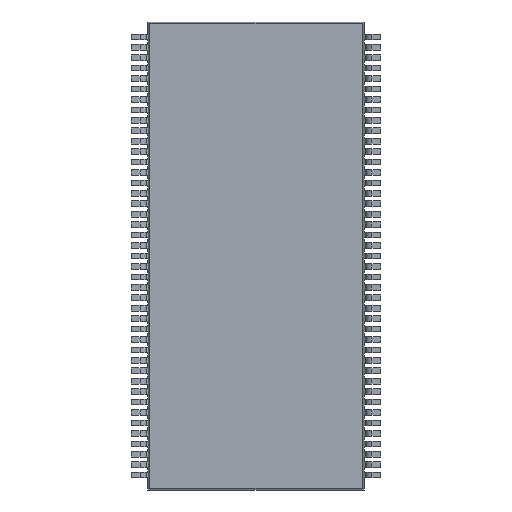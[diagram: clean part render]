
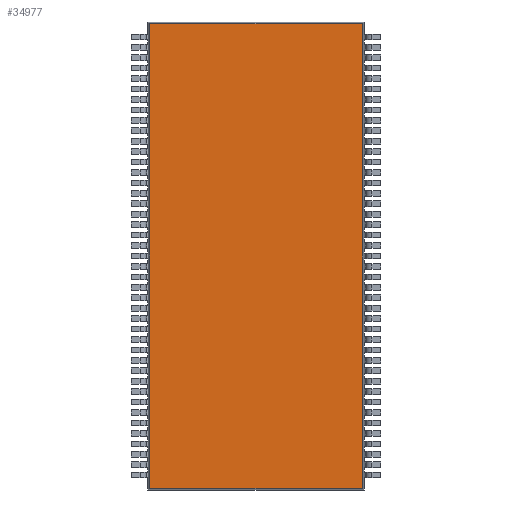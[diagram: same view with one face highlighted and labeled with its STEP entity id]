
A CAD part, front view. The second image highlights one B-rep face of the part: STEP entity #34977.
In plain terms, the highlighted planar face has unit normal (0, -1, 0).
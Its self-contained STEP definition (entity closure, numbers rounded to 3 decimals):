
#11272 = DIRECTION ( 'NONE',  ( -1., 0., 0. ) ) ;
#11274 = DIRECTION ( 'NONE',  ( 1., 0., 0. ) ) ;
#11276 = CARTESIAN_POINT ( 'NONE',  ( 5.18, 0.1, -11.126 ) ) ;
#11283 = CARTESIAN_POINT ( 'NONE',  ( 5.18, 0.1, 11.126 ) ) ;
#13584 = AXIS2_PLACEMENT_3D ( 'NONE', #15668, #15673, #15674 ) ;
#15247 = FACE_OUTER_BOUND ( 'NONE', #39924, .T. ) ;
#15667 = PLANE ( 'NONE',  #13584 ) ;
#15668 = CARTESIAN_POINT ( 'NONE',  ( 0., 0.1, 0. ) ) ;
#15673 = DIRECTION ( 'NONE',  ( 0., 1., 0. ) ) ;
#15674 = DIRECTION ( 'NONE',  ( 0., 0., 1. ) ) ;
#17957 = CARTESIAN_POINT ( 'NONE',  ( -5.096, 0.1, -11.126 ) ) ;
#17959 = CARTESIAN_POINT ( 'NONE',  ( -5.096, 0.1, 11.126 ) ) ;
#17966 = CARTESIAN_POINT ( 'NONE',  ( 5.096, 0.1, 11.126 ) ) ;
#17971 = CARTESIAN_POINT ( 'NONE',  ( 5.096, 0.1, -11.126 ) ) ;
#20104 = CARTESIAN_POINT ( 'NONE',  ( -5.096, 0.1, 11.21 ) ) ;
#20334 = CARTESIAN_POINT ( 'NONE',  ( 5.096, 0.1, 11.21 ) ) ;
#20336 = DIRECTION ( 'NONE',  ( 0., 0., -1. ) ) ;
#20352 = DIRECTION ( 'NONE',  ( 0., 0., 1. ) ) ;
#21038 = LINE ( 'NONE', #20104, #21039 ) ;
#21039 = VECTOR ( 'NONE', #20336, 1000. ) ;
#21042 = LINE ( 'NONE', #20334, #21055 ) ;
#21055 = VECTOR ( 'NONE', #20352, 1000. ) ;
#26505 = EDGE_CURVE ( 'NONE', #36284, #36295, #45726, .T. ) ;
#26508 = EDGE_CURVE ( 'NONE', #36291, #36286, #45725, .T. ) ;
#30571 = ORIENTED_EDGE ( 'NONE', *, *, #39072, .T. ) ;
#30572 = ORIENTED_EDGE ( 'NONE', *, *, #26505, .T. ) ;
#30573 = ORIENTED_EDGE ( 'NONE', *, *, #39080, .T. ) ;
#30575 = ORIENTED_EDGE ( 'NONE', *, *, #26508, .T. ) ;
#34977 = ADVANCED_FACE ( 'NONE', ( #15247 ), #15667, .F. ) ;
#36284 = VERTEX_POINT ( 'NONE', #17957 ) ;
#36286 = VERTEX_POINT ( 'NONE', #17959 ) ;
#36291 = VERTEX_POINT ( 'NONE', #17966 ) ;
#36295 = VERTEX_POINT ( 'NONE', #17971 ) ;
#39072 = EDGE_CURVE ( 'NONE', #36286, #36284, #21038, .T. ) ;
#39080 = EDGE_CURVE ( 'NONE', #36295, #36291, #21042, .T. ) ;
#39924 = EDGE_LOOP ( 'NONE', ( #30571, #30572, #30573, #30575 ) ) ;
#45725 = LINE ( 'NONE', #11283, #45731 ) ;
#45726 = LINE ( 'NONE', #11276, #45729 ) ;
#45729 = VECTOR ( 'NONE', #11274, 1000. ) ;
#45731 = VECTOR ( 'NONE', #11272, 1000. ) ;
